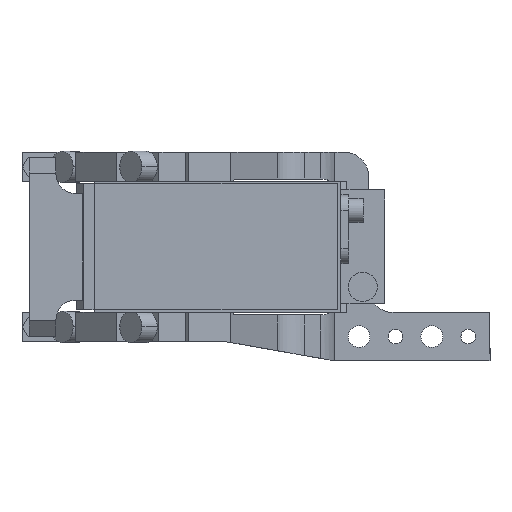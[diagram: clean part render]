
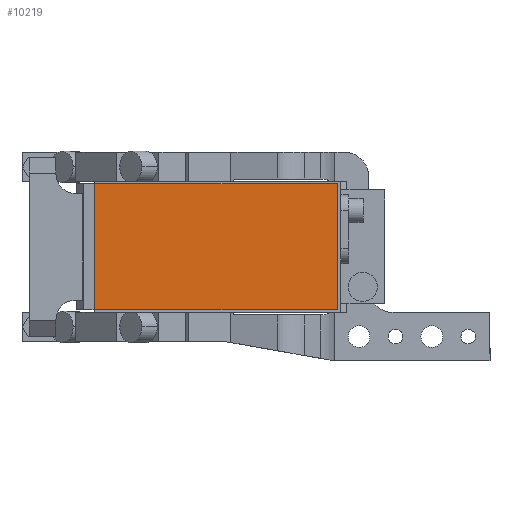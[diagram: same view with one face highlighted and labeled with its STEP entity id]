
A CAD part, front view. The second image highlights one B-rep face of the part: STEP entity #10219.
In plain terms, the highlighted planar face has unit normal (0, -1, 0).
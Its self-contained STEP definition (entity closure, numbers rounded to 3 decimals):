
#346 = CARTESIAN_POINT ( 'NONE',  ( -19., -286.5, 26. ) ) ;
#679 = DIRECTION ( 'NONE',  ( 0., 0., 1. ) ) ;
#1441 = PLANE ( 'NONE',  #5764 ) ;
#2084 = ORIENTED_EDGE ( 'NONE', *, *, #10186, .T. ) ;
#2639 = CARTESIAN_POINT ( 'NONE',  ( -19., -286.5, 26. ) ) ;
#2688 = LINE ( 'NONE', #2992, #4665 ) ;
#2714 = VERTEX_POINT ( 'NONE', #12002 ) ;
#2992 = CARTESIAN_POINT ( 'NONE',  ( 81., -286.5, 26. ) ) ;
#3253 = EDGE_CURVE ( 'NONE', #9463, #2714, #2688, .T. ) ;
#3541 = VECTOR ( 'NONE', #10640, 1000. ) ;
#3558 = LINE ( 'NONE', #8115, #3721 ) ;
#3721 = VECTOR ( 'NONE', #11482, 1000. ) ;
#3757 = CARTESIAN_POINT ( 'NONE',  ( -19., -286.5, 26. ) ) ;
#4283 = ORIENTED_EDGE ( 'NONE', *, *, #3253, .T. ) ;
#4291 = ORIENTED_EDGE ( 'NONE', *, *, #6610, .T. ) ;
#4665 = VECTOR ( 'NONE', #679, 1000. ) ;
#5764 = AXIS2_PLACEMENT_3D ( 'NONE', #9495, #9655, #8664 ) ;
#6214 = FACE_OUTER_BOUND ( 'NONE', #14103, .T. ) ;
#6610 = EDGE_CURVE ( 'NONE', #13453, #14591, #12012, .T. ) ;
#6934 = ORIENTED_EDGE ( 'NONE', *, *, #11405, .T. ) ;
#7012 = CARTESIAN_POINT ( 'NONE',  ( 81., -286.5, -26. ) ) ;
#7566 = DIRECTION ( 'NONE',  ( 0., 0., -1. ) ) ;
#8115 = CARTESIAN_POINT ( 'NONE',  ( -19., -286.5, -26. ) ) ;
#8664 = DIRECTION ( 'NONE',  ( 0., 0., -1. ) ) ;
#9463 = VERTEX_POINT ( 'NONE', #7012 ) ;
#9495 = CARTESIAN_POINT ( 'NONE',  ( 0., -286.5, 0. ) ) ;
#9655 = DIRECTION ( 'NONE',  ( 0., -1., 0. ) ) ;
#10186 = EDGE_CURVE ( 'NONE', #2714, #13453, #10870, .T. ) ;
#10219 = ADVANCED_FACE ( 'NONE', ( #6214 ), #1441, .T. ) ;
#10640 = DIRECTION ( 'NONE',  ( -1., 0., 0. ) ) ;
#10870 = LINE ( 'NONE', #346, #3541 ) ;
#11405 = EDGE_CURVE ( 'NONE', #14591, #9463, #3558, .T. ) ;
#11482 = DIRECTION ( 'NONE',  ( 1., 0., 0. ) ) ;
#11755 = CARTESIAN_POINT ( 'NONE',  ( -19., -286.5, -26. ) ) ;
#12002 = CARTESIAN_POINT ( 'NONE',  ( 81., -286.5, 26. ) ) ;
#12012 = LINE ( 'NONE', #2639, #12929 ) ;
#12929 = VECTOR ( 'NONE', #7566, 1000. ) ;
#13453 = VERTEX_POINT ( 'NONE', #3757 ) ;
#14103 = EDGE_LOOP ( 'NONE', ( #4291, #6934, #4283, #2084 ) ) ;
#14591 = VERTEX_POINT ( 'NONE', #11755 ) ;
